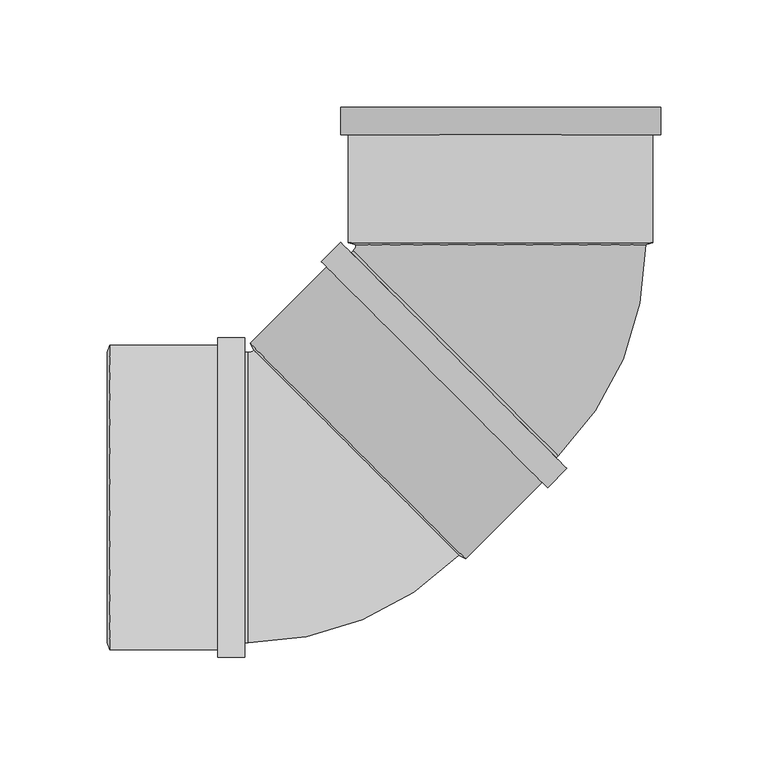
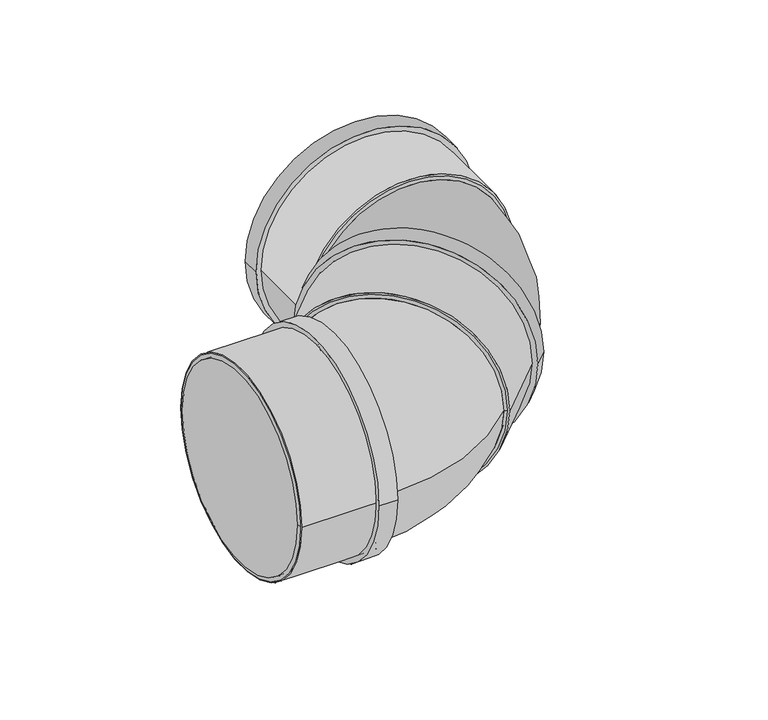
"""IFC4 building model written with IfcOpenShell, lengths in millimetres: pipe fitting geometry, Superdrain SK Bend_Composite 2x45 : Superdrain SK Bend_Composite 2x45."""

from ifc_helpers import new_model, si_unit, point, frame, origin, origin_2d, place, context, project, spatial, polyline, circle_curve, ellipse_curve, trimmed, segment, composite_curve, outline, extrude, source, transform, mapped, element, save
from ifc_brep_helpers import plane_surface, revolved_surface, advanced_brep


def pipe_fitting_90e7f26e(model_context):
    return source(origin(), model_context, "Body", "SolidModel", [
        advanced_brep(
        [(67.5, 117.5347943, 0.0), (-67.5, 117.5347943, 0.0), (26.8700577, 19.4454365, 0.0), (-68.5893578, 114.9048519, 0.0)],
        [
            (0, 1, circle_curve(frame((0.0, 117.5347943, 0.0), z_axis=(0.0, 1.0, 0.0), x_axis=(-1.0, 0.0, 0.0)), 67.5)),
            (1, 0, circle_curve(frame((0.0, 117.5347943, 0.0), z_axis=(0.0, 1.0, 0.0), x_axis=(-1.0, 0.0, 0.0)), 67.5)),
            (2, 3, circle_curve(frame((-20.85965, 67.1751442, 0.0), z_axis=(-0.7071067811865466, -0.7071067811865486, 0.0), x_axis=(-0.7071067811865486, 0.7071067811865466, 0.0)), 67.5)),
            (3, 2, circle_curve(frame((-20.85965, 67.1751442, 0.0), z_axis=(-0.7071067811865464, -0.7071067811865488, 0.0), x_axis=(-0.7071067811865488, 0.7071067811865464, 0.0)), 67.5)),
            (3, 1, circle_curve(frame((-71.2193001, 117.5347943, 0.0), z_axis=(0.0, 0.0, 1.0), x_axis=(0.707106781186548, 0.7071067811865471, 0.0)), 3.7193001)),
            (0, 2, circle_curve(frame((-71.2193001, 117.5347943, 0.0), z_axis=(0.0, 0.0, -1.0), x_axis=(0.707106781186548, 0.7071067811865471, 0.0)), 138.7193001)),
        ],
        [
            plane_surface(frame((0.0, 117.5347943, 0.0), z_axis=(0.0, 1.0, 0.0), x_axis=(0.0, 0.0, -1.0))),
            plane_surface(frame((-20.85965, 67.1751442, 0.0), z_axis=(-0.7071067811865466, -0.7071067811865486, 0.0), x_axis=(0.0, 0.0, -1.0))),
            revolved_surface(trimmed(ellipse_curve(frame((-20.85965, 167.8944443, 0.0), z_axis=(0.7071067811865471, -0.707106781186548, 0.0), x_axis=(-0.707106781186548, -0.7071067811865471, 0.0)), 67.5, 67.5), [point((-68.5893578, 120.1647366, 0.0))], [point((26.8700577, 215.624152, 0.0))], True, "CARTESIAN"), (-71.2193001, 117.5347943, 0.0), (0.0, 0.0, 1.0)),
            revolved_surface(trimmed(ellipse_curve(frame((-20.85965, 167.8944443, 0.0), z_axis=(0.7071067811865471, -0.707106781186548, 0.0), x_axis=(-0.707106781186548, -0.7071067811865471, 0.0)), 67.5, 67.5), [point((26.8700577, 215.624152, 0.0))], [point((-68.5893578, 120.1647366, 0.0))], True, "CARTESIAN"), (-71.2193001, 117.5347943, 0.0), (0.0, 0.0, 1.0)),
        ],
        [
            (0, [[1, 2]]),
            (1, [[3, 4]]),
            (2, [[-4, 5, -1, 6]]),
            (3, [[-3, -6, -2, -5]]),
        ],
    ),
        extrude(outline(composite_curve([segment(trimmed(circle_curve(origin_2d(), 70.875), [point((0.0, 70.875))], [point((0.0, -70.875))], False, "CARTESIAN"), True, "CONTINUOUS"), segment(trimmed(circle_curve(origin_2d(), 70.875), [point((0.0, -70.875))], [point((0.0, 70.875))], False, "CARTESIAN"), True, "CONTINUOUS")], self_intersect=False), holes=[composite_curve([segment(trimmed(circle_curve(origin_2d(), 67.5), [point((0.0, 67.5))], [point((0.0, -67.5))], True, "CARTESIAN"), True, "CONTINUOUS"), segment(trimmed(circle_curve(origin_2d(), 67.5), [point((0.0, -67.5))], [point((0.0, 67.5))], True, "CARTESIAN"), True, "CONTINUOUS")], self_intersect=False)]), frame((0.0, 118.5347943, 0.0), z_axis=(0.0, 1.0, 0.0), x_axis=(0.0, 0.0, 1.0)), (0.0, 0.0, 1.0), 63.0),
        extrude(outline(composite_curve([segment(trimmed(circle_curve(origin_2d(), 74.41875), [point((0.0, -74.41875))], [point((0.0, 74.41875))], False, "CARTESIAN"), True, "CONTINUOUS"), segment(trimmed(circle_curve(origin_2d(), 74.41875), [point((0.0, 74.41875))], [point((0.0, -74.41875))], False, "CARTESIAN"), True, "CONTINUOUS")], self_intersect=False), holes=[composite_curve([segment(trimmed(circle_curve(origin_2d(), 67.5), [point((0.0, -67.5))], [point((0.0, 67.5))], True, "CARTESIAN"), True, "CONTINUOUS"), segment(trimmed(circle_curve(origin_2d(), 67.5), [point((0.0, 67.5))], [point((0.0, -67.5))], True, "CARTESIAN"), True, "CONTINUOUS")], self_intersect=False)]), frame((0.0, 168.9347943, 0.0), z_axis=(0.0, 1.0, 0.0), x_axis=(0.0, 0.0, 1.0)), (0.0, 0.0, 1.0), 12.6),
        advanced_brep(
        [(70.875, 118.5347943, 0.0), (-70.875, 118.5347943, 0.0), (67.5, 117.5347943, 0.0), (-67.5, 117.5347943, 0.0)],
        [
            (0, 1, circle_curve(frame((0.0, 118.5347943, 0.0), z_axis=(0.0, 1.0, 0.0), x_axis=(1.0, 0.0, 0.0)), 70.875)),
            (1, 0, circle_curve(frame((0.0, 118.5347943, 0.0), z_axis=(0.0, 1.0, 0.0), x_axis=(-1.0, 0.0, 0.0)), 70.875)),
            (2, 3, circle_curve(frame((0.0, 117.5347943, 0.0), z_axis=(0.0, -1.0, 0.0), x_axis=(-1.0, 0.0, 0.0)), 67.5)),
            (3, 2, circle_curve(frame((0.0, 117.5347943, 0.0), z_axis=(0.0, -1.0, 0.0), x_axis=(1.0, 0.0, 0.0)), 67.5)),
            (3, 1),
            (0, 2),
        ],
        [
            plane_surface(frame((0.0, 118.5347943, 0.0), z_axis=(0.0, 1.0, 0.0), x_axis=(0.0, 0.0, -1.0))),
            plane_surface(frame((0.0, 117.5347943, 0.0), z_axis=(0.0, -1.0, 0.0), x_axis=(0.0, 0.0, -1.0))),
            revolved_surface(polyline([(-67.5, 117.5347943, 0.0), (-70.875, 118.5347943, 0.0)]), (0.0, 97.5347943, 0.0), (0.0, 1.0, 0.0)),
            revolved_surface(polyline([(67.5, 117.5347943, 0.0), (70.875, 118.5347943, 0.0)]), (0.0, 97.5347943, 0.0), (0.0, 1.0, 0.0)),
        ],
        [
            (0, [[1, 2]]),
            (1, [[3, 4]]),
            (2, [[-4, 5, -1, 6]]),
            (3, [[-3, -6, -2, -5]]),
        ],
    ),
        extrude(outline(composite_curve([segment(trimmed(circle_curve(origin_2d(), 67.5), [point((0.0, -67.5))], [point((0.0, 67.5000001))], False, "CARTESIAN"), True, "CONTINUOUS"), segment(trimmed(circle_curve(origin_2d(), 67.5), [point((0.0, 67.5000001))], [point((0.0, -67.5))], False, "CARTESIAN"), True, "CONTINUOUS")], self_intersect=False)), frame((-66.4680374, 21.5667568, 0.0), z_axis=(0.707106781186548, 0.7071067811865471, 0.0), x_axis=(0.0, 0.0, -1.0)), (0.0, 0.0, 1.0), 64.5),
        extrude(outline(composite_curve([segment(trimmed(circle_curve(origin_2d(), 70.875), [point((70.875, 0.0))], [point((-70.875, 0.0))], False, "CARTESIAN"), True, "CONTINUOUS"), segment(trimmed(circle_curve(origin_2d(), 70.875), [point((-70.875, 0.0))], [point((70.875, 0.0))], False, "CARTESIAN"), True, "CONTINUOUS")], self_intersect=False), holes=[composite_curve([segment(trimmed(circle_curve(origin_2d(), 67.5), [point((67.5, 0.0))], [point((-67.5, 0.0))], True, "CARTESIAN"), True, "CONTINUOUS"), segment(trimmed(circle_curve(origin_2d(), 67.5), [point((-67.5, 0.0))], [point((67.5, 0.0))], True, "CARTESIAN"), True, "CONTINUOUS")], self_intersect=False)]), frame((-182.0347943, 0.0, 0.0), z_axis=(1.0, 0.0, 0.0), x_axis=(0.0, 1.0, 0.0)), (0.0, 0.0, 1.0), 63.0),
        extrude(outline(composite_curve([segment(trimmed(circle_curve(origin_2d(), 74.41875), [point((74.41875, 0.0))], [point((-74.41875, 0.0))], False, "CARTESIAN"), True, "CONTINUOUS"), segment(trimmed(circle_curve(origin_2d(), 74.41875), [point((-74.41875, 0.0))], [point((74.41875, 0.0))], False, "CARTESIAN"), True, "CONTINUOUS")], self_intersect=False), holes=[composite_curve([segment(trimmed(circle_curve(origin_2d(), 67.5), [point((67.5, 0.0))], [point((-67.5, 0.0))], True, "CARTESIAN"), True, "CONTINUOUS"), segment(trimmed(circle_curve(origin_2d(), 67.5), [point((-67.5, 0.0))], [point((67.5, 0.0))], True, "CARTESIAN"), True, "CONTINUOUS")], self_intersect=False)]), frame((-131.6347943, 0.0, 0.0), z_axis=(1.0, 0.0, 0.0), x_axis=(0.0, 1.0, 0.0)), (0.0, 0.0, 1.0), 12.6),
        advanced_brep(
        [(-183.0347943, 67.5, 0.0), (-183.0347943, -67.5, 0.0), (-182.0347943, 70.875, 0.0), (-182.0347943, -70.875, 0.0)],
        [
            (0, 1, circle_curve(frame((-183.0347943, 0.0, 0.0), z_axis=(-1.0, 0.0, 0.0), x_axis=(0.0, 1.0, 0.0)), 67.5)),
            (1, 0, circle_curve(frame((-183.0347943, 0.0, 0.0), z_axis=(-1.0, 0.0, 0.0), x_axis=(0.0, -1.0, 0.0)), 67.5)),
            (2, 3, circle_curve(frame((-182.0347943, 0.0, 0.0), z_axis=(1.0, 0.0, 0.0), x_axis=(0.0, -1.0, 0.0)), 70.875)),
            (3, 2, circle_curve(frame((-182.0347943, 0.0, 0.0), z_axis=(1.0, 0.0, 0.0), x_axis=(0.0, 1.0, 0.0)), 70.875)),
            (3, 1),
            (0, 2),
        ],
        [
            plane_surface(frame((-183.0347943, 0.0, 0.0), z_axis=(-1.0, 0.0, 0.0), x_axis=(0.0, 0.0, -1.0))),
            plane_surface(frame((-182.0347943, 0.0, 0.0), z_axis=(1.0, 0.0, 0.0), x_axis=(0.0, 0.0, -1.0))),
            revolved_surface(polyline([(-183.0347943, 67.5, 0.0), (-182.0347943, 70.875, 0.0)]), (-203.0347943, 0.0, 0.0), (1.0, 0.0, 0.0)),
            revolved_surface(polyline([(-183.0347943, -67.5, 0.0), (-182.0347943, -70.875, 0.0)]), (-203.0347943, 0.0, 0.0), (1.0, 0.0, 0.0)),
        ],
        [
            (0, [[1, 2]]),
            (1, [[3, 4]]),
            (2, [[-4, 5, -1, 6]]),
            (3, [[-3, -6, -2, -5]]),
        ],
    ),
        advanced_brep(
        [(-19.4454365, -26.8700577, 0.0), (-114.9048519, 68.5893578, 0.0), (-117.5347943, -67.5, 0.0), (-117.5347943, 67.5, 0.0)],
        [
            (0, 1, circle_curve(frame((-67.1751442, 20.85965, 0.0), z_axis=(0.7071067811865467, 0.7071067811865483, 0.0), x_axis=(-0.7071067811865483, 0.7071067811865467, 0.0)), 67.5)),
            (1, 0, circle_curve(frame((-67.1751442, 20.85965, 0.0), z_axis=(0.7071067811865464, 0.7071067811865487, 0.0), x_axis=(-0.7071067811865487, 0.7071067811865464, 0.0)), 67.5)),
            (2, 3, circle_curve(frame((-117.5347943, 0.0, 0.0), z_axis=(-1.0, 0.0, 0.0), x_axis=(0.0, 1.0, 0.0)), 67.5)),
            (3, 2, circle_curve(frame((-117.5347943, 0.0, 0.0), z_axis=(-1.0, 0.0, 0.0), x_axis=(0.0, 1.0, 0.0)), 67.5)),
            (3, 1, circle_curve(frame((-117.5347943, 71.2193001, 0.0), z_axis=(0.0, 0.0, 1.0), x_axis=(1.0, 0.0, 0.0)), 3.7193001)),
            (0, 2, circle_curve(frame((-117.5347943, 71.2193001, 0.0), z_axis=(0.0, 0.0, -1.0), x_axis=(1.0, 0.0, 0.0)), 138.7193001)),
        ],
        [
            plane_surface(frame((-67.1751442, 20.85965, 0.0), z_axis=(0.7071067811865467, 0.7071067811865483, 0.0), x_axis=(0.0, 0.0, -1.0))),
            plane_surface(frame((-117.5347943, 0.0, 0.0), z_axis=(-1.0, 0.0, 0.0), x_axis=(0.0, 0.0, -1.0))),
            revolved_surface(trimmed(ellipse_curve(frame((-46.3154942, 71.2193001, 0.0), z_axis=(0.0, -1.0, 0.0), x_axis=(-1.0, 0.0, 0.0)), 67.5, 67.5), [point((-113.8154942, 71.2193001, 0.0))], [point((21.1845058, 71.2193001, 0.0))], True, "CARTESIAN"), (-117.5347943, 71.2193001, 0.0), (0.0, 0.0, 1.0)),
            revolved_surface(trimmed(ellipse_curve(frame((-46.3154942, 71.2193001, 0.0), z_axis=(0.0, -1.0, 0.0), x_axis=(-1.0, 0.0, 0.0)), 67.5, 67.5), [point((21.1845058, 71.2193001, 0.0))], [point((-113.8154942, 71.2193001, 0.0))], True, "CARTESIAN"), (-117.5347943, 71.2193001, 0.0), (0.0, 0.0, 1.0)),
        ],
        [
            (0, [[1, 2]]),
            (1, [[3, 4]]),
            (2, [[-4, 5, -1, 6]]),
            (3, [[-3, -6, -2, -5]]),
        ],
    ),
        extrude(outline(composite_curve([segment(trimmed(circle_curve(origin_2d(), 70.875), [point((0.0, 70.875))], [point((0.0, -70.875))], False, "CARTESIAN"), True, "CONTINUOUS"), segment(trimmed(circle_curve(origin_2d(), 70.875), [point((0.0, -70.875))], [point((0.0, 70.875))], False, "CARTESIAN"), True, "CONTINUOUS")], self_intersect=False), holes=[composite_curve([segment(trimmed(circle_curve(origin_2d(), 67.5), [point((0.0, 67.5))], [point((0.0, -67.5000001))], True, "CARTESIAN"), True, "CONTINUOUS"), segment(trimmed(circle_curve(origin_2d(), 67.5), [point((0.0, -67.5000001))], [point((0.0, 67.5))], True, "CARTESIAN"), True, "CONTINUOUS")], self_intersect=False)]), frame((-66.4680374, 21.5667568, 0.0), z_axis=(0.7071067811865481, 0.707106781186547, 0.0), x_axis=(0.0, 0.0, 1.0)), (0.0, 0.0, 1.0), 63.0),
        extrude(outline(composite_curve([segment(trimmed(circle_curve(origin_2d(), 74.41875), [point((0.0, -74.41875))], [point((0.0, 74.41875))], False, "CARTESIAN"), True, "CONTINUOUS"), segment(trimmed(circle_curve(origin_2d(), 74.41875), [point((0.0, 74.41875))], [point((0.0, -74.41875))], False, "CARTESIAN"), True, "CONTINUOUS")], self_intersect=False), holes=[composite_curve([segment(trimmed(circle_curve(origin_2d(), 67.5), [point((0.0, -67.5))], [point((0.0, 67.5))], True, "CARTESIAN"), True, "CONTINUOUS"), segment(trimmed(circle_curve(origin_2d(), 67.5), [point((0.0, 67.5))], [point((0.0, -67.5))], True, "CARTESIAN"), True, "CONTINUOUS")], self_intersect=False)]), frame((-30.8298557, 57.2049386, 0.0), z_axis=(0.7071067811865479, 0.7071067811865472, 0.0), x_axis=(0.0, 0.0, 1.0)), (0.0, 0.0, 1.0), 12.6),
        advanced_brep(
        [(-16.3518443, -28.5494363, 0.0), (-116.5842305, 71.6829499, 0.0), (-19.4454365, -26.8700577, 0.0), (-114.9048519, 68.5893578, 0.0)],
        [
            (0, 1, circle_curve(frame((-66.4680374, 21.5667568, 0.0), z_axis=(0.7071067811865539, 0.7071067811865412, 0.0), x_axis=(0.7071067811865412, -0.7071067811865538, 0.0)), 70.875)),
            (1, 0, circle_curve(frame((-66.4680374, 21.5667568, 0.0), z_axis=(0.7071067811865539, 0.7071067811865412, 0.0), x_axis=(-0.7071067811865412, 0.7071067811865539, 0.0)), 70.875)),
            (2, 3, circle_curve(frame((-67.1751442, 20.85965, 0.0), z_axis=(-0.7071067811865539, -0.7071067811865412, 0.0), x_axis=(-0.7071067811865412, 0.7071067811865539, 0.0)), 67.5)),
            (3, 2, circle_curve(frame((-67.1751442, 20.85965, 0.0), z_axis=(-0.7071067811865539, -0.7071067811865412, 0.0), x_axis=(0.7071067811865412, -0.7071067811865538, 0.0)), 67.5)),
            (3, 1),
            (0, 2),
        ],
        [
            plane_surface(frame((-66.4680374, 21.5667568, 0.0), z_axis=(0.7071067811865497, 0.7071067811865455, 0.0), x_axis=(0.0, 0.0, -1.0))),
            plane_surface(frame((-67.1751442, 20.85965, 0.0), z_axis=(-0.7071067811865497, -0.7071067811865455, 0.0), x_axis=(0.0, 0.0, -1.0))),
            revolved_surface(polyline([(-114.90485185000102, 68.58935765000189, 0.0), (-116.58423050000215, 71.68294990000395, 0.0)]), (-81.3172798, 6.7175144, 0.0), (0.7071067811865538, 0.7071067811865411, 0.0)),
            revolved_surface(polyline([(-19.445436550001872, -26.870057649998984, 0.0), (-16.351844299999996, -28.549436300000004, 0.0)]), (-81.3172798, 6.7175144, 0.0), (0.7071067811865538, 0.7071067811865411, 0.0)),
        ],
        [
            (0, [[1, 2]]),
            (1, [[3, 4]]),
            (2, [[-4, 5, -1, 6]]),
            (3, [[-3, -6, -2, -5]]),
        ],
    ),
        extrude(outline(composite_curve([segment(trimmed(circle_curve(origin_2d(), 67.5), [point((-67.5, 0.0))], [point((67.5, 0.0))], False, "CARTESIAN"), True, "CONTINUOUS"), segment(trimmed(circle_curve(origin_2d(), 67.5), [point((67.5, 0.0))], [point((-67.5, 0.0))], False, "CARTESIAN"), True, "CONTINUOUS")], self_intersect=False)), frame((-182.0347943, 0.0, 0.0), z_axis=(1.0, 0.0, 0.0), x_axis=(0.0, 1.0, 0.0)), (0.0, 0.0, 1.0), 64.5),
    ])


if __name__ == "__main__":
    model = new_model("IFC4")
    model_context = context("Model", 3, world=origin())
    ifc_project = project(units=[si_unit("LENGTHUNIT", "METRE", prefix="MILLI")], contexts=[model_context])
    site = spatial("IfcSite", under=ifc_project)
    building = spatial("IfcBuilding", under=site)
    placement = place(None, origin())
    pipe_fitting_shape = pipe_fitting_90e7f26e(model_context)
    element("IfcPipeFitting", 1, ObjectType="Superdrain SK Bend_Composite 2x45 : Superdrain SK Bend_Composite 2x45", at=placement, inside=building, context=model_context, shape_type="MappedRepresentation", body=[
        mapped(pipe_fitting_shape, transform((0.0, 0.0, 0.0), x_axis=(1.0, 0.0, 0.0), y_axis=(0.0, 1.0, 0.0), z_axis=(0.0, 0.0, 1.0))),
    ])
    save(model, "model.ifc")
